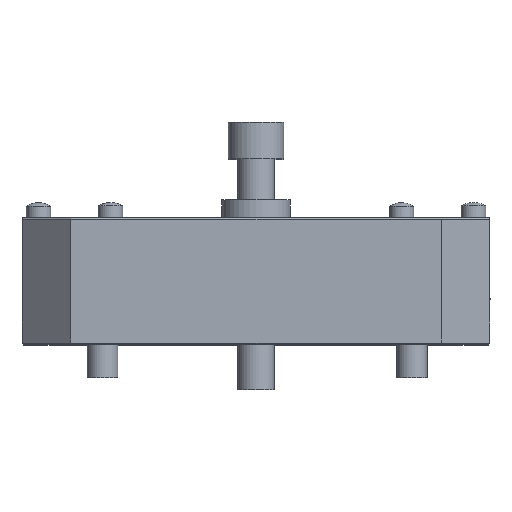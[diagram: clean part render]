
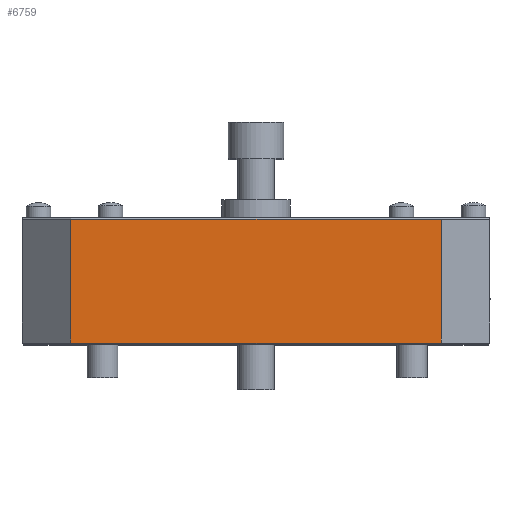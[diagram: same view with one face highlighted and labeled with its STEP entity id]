
A CAD part, top view. The second image highlights one B-rep face of the part: STEP entity #6759.
In plain terms, the highlighted planar face has unit normal (0, 0, 1).
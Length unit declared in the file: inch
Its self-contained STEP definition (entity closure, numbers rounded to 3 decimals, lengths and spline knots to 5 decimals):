
#174 = ORIENTED_EDGE ( 'NONE', *, *, #14936, .T. ) ;
#203 = ORIENTED_EDGE ( 'NONE', *, *, #3591, .T. ) ;
#256 = VERTEX_POINT ( 'NONE', #9994 ) ;
#680 = DIRECTION ( 'NONE',  ( 0., -1., 0. ) ) ;
#1935 = LINE ( 'NONE', #8243, #6503 ) ;
#2880 = DIRECTION ( 'NONE',  ( -1., 0., 0. ) ) ;
#3026 = LINE ( 'NONE', #5641, #5036 ) ;
#3591 = EDGE_CURVE ( 'NONE', #8583, #256, #3026, .T. ) ;
#4298 = DIRECTION ( 'NONE',  ( 0., 1., 0. ) ) ;
#4904 = VERTEX_POINT ( 'NONE', #15528 ) ;
#4984 = LINE ( 'NONE', #6520, #6429 ) ;
#5036 = VECTOR ( 'NONE', #15409, 39.37008 ) ;
#5155 = CARTESIAN_POINT ( 'NONE',  ( 2.375, 1.63, 2.475 ) ) ;
#5641 = CARTESIAN_POINT ( 'NONE',  ( -3., 1.63, 2.475 ) ) ;
#5727 = CARTESIAN_POINT ( 'NONE',  ( -3., 1.675, 2.475 ) ) ;
#6429 = VECTOR ( 'NONE', #10058, 39.37008 ) ;
#6503 = VECTOR ( 'NONE', #4298, 39.37008 ) ;
#6520 = CARTESIAN_POINT ( 'NONE',  ( 2.375, 0.045, 2.475 ) ) ;
#6759 = ADVANCED_FACE ( 'NONE', ( #11622 ), #13985, .F. ) ;
#6899 = EDGE_CURVE ( 'NONE', #4904, #8966, #4984, .T. ) ;
#8243 = CARTESIAN_POINT ( 'NONE',  ( 2.375, 1.675, 2.475 ) ) ;
#8309 = ORIENTED_EDGE ( 'NONE', *, *, #6899, .T. ) ;
#8583 = VERTEX_POINT ( 'NONE', #5155 ) ;
#8688 = EDGE_LOOP ( 'NONE', ( #174, #203, #10724, #8309 ) ) ;
#8966 = VERTEX_POINT ( 'NONE', #13621 ) ;
#9994 = CARTESIAN_POINT ( 'NONE',  ( -2.375, 1.63, 2.475 ) ) ;
#10058 = DIRECTION ( 'NONE',  ( 1., 0., 0. ) ) ;
#10483 = EDGE_CURVE ( 'NONE', #256, #4904, #14301, .T. ) ;
#10648 = DIRECTION ( 'NONE',  ( 0., 0., -1. ) ) ;
#10724 = ORIENTED_EDGE ( 'NONE', *, *, #10483, .T. ) ;
#11622 = FACE_OUTER_BOUND ( 'NONE', #8688, .T. ) ;
#13621 = CARTESIAN_POINT ( 'NONE',  ( 2.375, 0.045, 2.475 ) ) ;
#13985 = PLANE ( 'NONE',  #15190 ) ;
#14137 = VECTOR ( 'NONE', #680, 39.37008 ) ;
#14301 = LINE ( 'NONE', #15492, #14137 ) ;
#14936 = EDGE_CURVE ( 'NONE', #8966, #8583, #1935, .T. ) ;
#15190 = AXIS2_PLACEMENT_3D ( 'NONE', #5727, #10648, #2880 ) ;
#15409 = DIRECTION ( 'NONE',  ( -1., 0., 0. ) ) ;
#15492 = CARTESIAN_POINT ( 'NONE',  ( -2.375, 1.675, 2.475 ) ) ;
#15528 = CARTESIAN_POINT ( 'NONE',  ( -2.375, 0.045, 2.475 ) ) ;
